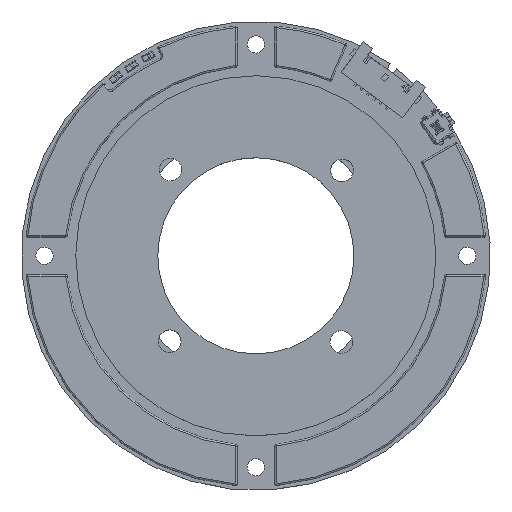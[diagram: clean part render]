
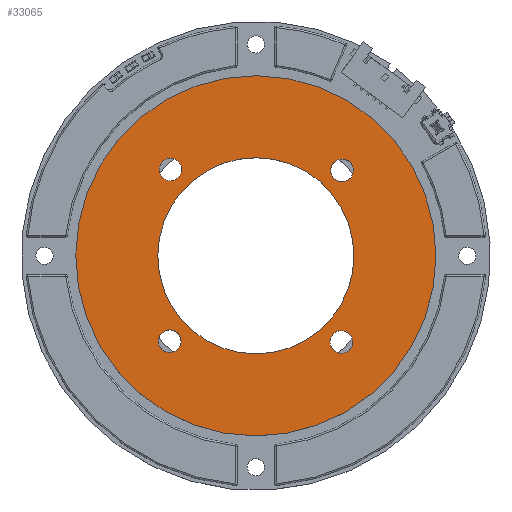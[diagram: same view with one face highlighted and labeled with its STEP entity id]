
A CAD part, top view. The second image highlights one B-rep face of the part: STEP entity #33065.
In plain terms, the highlighted planar face has unit normal (0, 0, 1).
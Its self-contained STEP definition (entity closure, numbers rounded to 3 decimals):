
#221=B_SPLINE_CURVE_WITH_KNOTS('',3,(#51193,#51194,#51195,#51196,#51197,
#51198,#51199,#51200,#51201,#51202,#51203,#51204,#51205),.UNSPECIFIED.,
 .T.,.F.,(1,1,1,1,1,1,1,1,1,1,1,1,1,1,1,1,1),(0.522,0.64,
0.757,0.875,0.905,0.934,
1.052,1.169,1.287,1.405,1.522,
1.64,1.757,1.875,1.905,1.934,
2.052),.UNSPECIFIED.);
#222=B_SPLINE_CURVE_WITH_KNOTS('',3,(#51216,#51217,#51218,#51219,#51220,
#51221,#51222,#51223,#51224,#51225,#51226,#51227,#51228,#51229,#51230,#51231,
#51232,#51233),.UNSPECIFIED.,.T.,.F.,(1,1,1,1,1,1,1,1,1,1,1,1,1,1,1,1,1,
1,1,1,1,1),(-0.128,-0.066,0.03,0.125,
0.184,0.247,0.309,0.372,
0.434,0.497,0.559,0.622,
0.684,0.747,0.809,0.872,
0.934,1.03,1.125,1.184,1.247,
1.309),.UNSPECIFIED.);
#223=B_SPLINE_CURVE_WITH_KNOTS('',3,(#51236,#51237,#51238,#51239,#51240,
#51241,#51242,#51243,#51244,#51245,#51246,#51247,#51248,#51249),
 .UNSPECIFIED.,.T.,.F.,(1,1,1,1,1,1,1,1,1,1,1,1,1,1,1,1,1,1),(0.107,
0.28,0.452,0.625,0.655,
0.684,0.747,0.809,0.872,
0.903,0.934,1.107,1.28,1.452,
1.625,1.655,1.684,1.747),
 .UNSPECIFIED.);
#14416=ORIENTED_EDGE('',*,*,#18248,.T.);
#14417=ORIENTED_EDGE('',*,*,#18247,.T.);
#14418=ORIENTED_EDGE('',*,*,#18246,.T.);
#14419=ORIENTED_EDGE('',*,*,#18245,.T.);
#14420=ORIENTED_EDGE('',*,*,#18242,.T.);
#14421=ORIENTED_EDGE('',*,*,#18232,.T.);
#14422=ORIENTED_EDGE('',*,*,#18230,.F.);
#18230=EDGE_CURVE('',#20734,#20734,#21319,.T.);
#18232=EDGE_CURVE('',#20736,#20736,#21321,.T.);
#18242=EDGE_CURVE('',#20746,#20746,#221,.T.);
#18245=EDGE_CURVE('',#20747,#20748,#21326,.F.);
#18246=EDGE_CURVE('',#20748,#20747,#21327,.T.);
#18247=EDGE_CURVE('',#20749,#20749,#222,.T.);
#18248=EDGE_CURVE('',#20750,#20750,#223,.T.);
#20734=VERTEX_POINT('',#51124);
#20736=VERTEX_POINT('',#51129);
#20746=VERTEX_POINT('',#51206);
#20747=VERTEX_POINT('',#51209);
#20748=VERTEX_POINT('',#51211);
#20749=VERTEX_POINT('',#51234);
#20750=VERTEX_POINT('',#51250);
#21319=CIRCLE('',#35155,23.);
#21321=CIRCLE('',#35158,12.525);
#21326=CIRCLE('',#35169,1.45);
#21327=CIRCLE('',#35171,1.45);
#22861=EDGE_LOOP('',(#14416));
#22862=EDGE_LOOP('',(#14417));
#22863=EDGE_LOOP('',(#14418,#14419));
#22864=EDGE_LOOP('',(#14420));
#22865=EDGE_LOOP('',(#14421));
#22866=EDGE_LOOP('',(#14422));
#24402=FACE_BOUND('',#22861,.T.);
#24403=FACE_BOUND('',#22862,.T.);
#24404=FACE_BOUND('',#22863,.T.);
#24405=FACE_BOUND('',#22864,.T.);
#24406=FACE_BOUND('',#22865,.T.);
#24407=FACE_BOUND('',#22866,.T.);
#25506=PLANE('',#35173);
#33065=ADVANCED_FACE('',(#24402,#24403,#24404,#24405,#24406,#24407),#25506,
 .F.);
#35155=AXIS2_PLACEMENT_3D('',#51123,#42187,#42188);
#35158=AXIS2_PLACEMENT_3D('',#51128,#42193,#42194);
#35169=AXIS2_PLACEMENT_3D('',#51212,#42217,#42218);
#35171=AXIS2_PLACEMENT_3D('',#51214,#42221,#42222);
#35173=AXIS2_PLACEMENT_3D('',#51235,#42225,#42226);
#42187=DIRECTION('',(0.,0.,-1.));
#42188=DIRECTION('',(1.,0.,0.));
#42193=DIRECTION('',(0.,0.,-1.));
#42194=DIRECTION('',(1.,0.,0.));
#42217=DIRECTION('',(0.,0.,1.));
#42218=DIRECTION('',(1.,0.,0.));
#42221=DIRECTION('',(0.,0.,-1.));
#42222=DIRECTION('',(-1.,0.,0.));
#42225=DIRECTION('',(0.,0.,-1.));
#42226=DIRECTION('',(-1.,0.,0.));
#51123=CARTESIAN_POINT('',(0.,0.,0.));
#51124=CARTESIAN_POINT('',(23.,0.,0.));
#51128=CARTESIAN_POINT('',(0.,0.,0.));
#51129=CARTESIAN_POINT('',(12.525,0.,0.));
#51193=CARTESIAN_POINT('',(-11.035,9.374,0.));
#51194=CARTESIAN_POINT('',(-11.82,9.722,0.));
#51195=CARTESIAN_POINT('',(-12.165,10.137,0.));
#51196=CARTESIAN_POINT('',(-12.426,10.609,0.));
#51197=CARTESIAN_POINT('',(-12.465,11.467,0.));
#51198=CARTESIAN_POINT('',(-11.731,12.349,0.));
#51199=CARTESIAN_POINT('',(-10.595,12.506,0.));
#51200=CARTESIAN_POINT('',(-9.649,11.856,0.));
#51201=CARTESIAN_POINT('',(-9.387,10.739,0.));
#51202=CARTESIAN_POINT('',(-9.947,9.737,0.));
#51203=CARTESIAN_POINT('',(-11.035,9.374,0.));
#51204=CARTESIAN_POINT('',(-11.82,9.722,0.));
#51205=CARTESIAN_POINT('',(-12.165,10.137,0.));
#51206=CARTESIAN_POINT('',(-11.985,9.935,0.));
#51209=CARTESIAN_POINT('',(11.985,-9.935,0.));
#51211=CARTESIAN_POINT('',(9.935,-11.985,0.));
#51212=CARTESIAN_POINT('',(10.96,-10.96,0.));
#51214=CARTESIAN_POINT('',(10.96,-10.96,0.));
#51216=CARTESIAN_POINT('',(9.447,11.245,0.));
#51217=CARTESIAN_POINT('',(9.819,11.947,0.));
#51218=CARTESIAN_POINT('',(10.372,12.325,0.));
#51219=CARTESIAN_POINT('',(10.929,12.448,0.));
#51220=CARTESIAN_POINT('',(11.501,12.346,0.));
#51221=CARTESIAN_POINT('',(11.99,12.034,0.));
#51222=CARTESIAN_POINT('',(12.322,11.558,0.));
#51223=CARTESIAN_POINT('',(12.448,10.991,0.));
#51224=CARTESIAN_POINT('',(12.346,10.42,0.));
#51225=CARTESIAN_POINT('',(12.034,9.93,0.));
#51226=CARTESIAN_POINT('',(11.558,9.598,0.));
#51227=CARTESIAN_POINT('',(10.991,9.473,0.));
#51228=CARTESIAN_POINT('',(10.42,9.574,0.));
#51229=CARTESIAN_POINT('',(9.931,9.886,0.));
#51230=CARTESIAN_POINT('',(9.539,10.445,0.));
#51231=CARTESIAN_POINT('',(9.447,11.245,0.));
#51232=CARTESIAN_POINT('',(9.819,11.947,0.));
#51233=CARTESIAN_POINT('',(10.372,12.325,0.));
#51234=CARTESIAN_POINT('',(9.935,11.985,0.));
#51235=CARTESIAN_POINT('',(0.,0.,0.));
#51236=CARTESIAN_POINT('',(-9.275,-10.443,0.));
#51237=CARTESIAN_POINT('',(-9.592,-11.713,0.));
#51238=CARTESIAN_POINT('',(-10.137,-12.165,0.));
#51239=CARTESIAN_POINT('',(-10.462,-12.344,0.));
#51240=CARTESIAN_POINT('',(-10.929,-12.448,0.));
#51241=CARTESIAN_POINT('',(-11.501,-12.346,0.));
#51242=CARTESIAN_POINT('',(-11.908,-12.086,0.));
#51243=CARTESIAN_POINT('',(-12.157,-11.796,0.));
#51244=CARTESIAN_POINT('',(-12.509,-11.171,0.));
#51245=CARTESIAN_POINT('',(-12.342,-9.866,0.));
#51246=CARTESIAN_POINT('',(-10.634,-9.225,0.));
#51247=CARTESIAN_POINT('',(-9.275,-10.443,0.));
#51248=CARTESIAN_POINT('',(-9.592,-11.713,0.));
#51249=CARTESIAN_POINT('',(-10.137,-12.165,0.));
#51250=CARTESIAN_POINT('',(-9.935,-11.985,0.));
